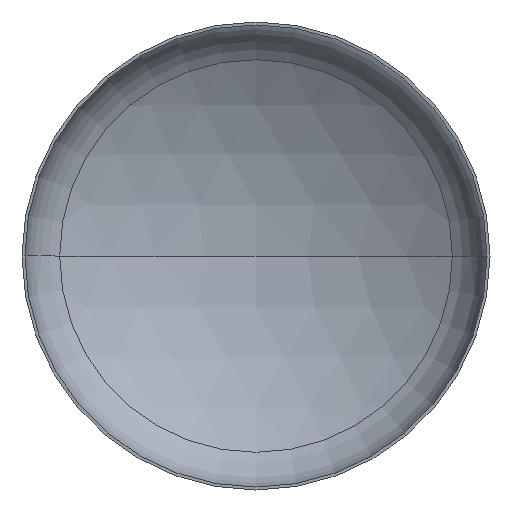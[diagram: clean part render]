
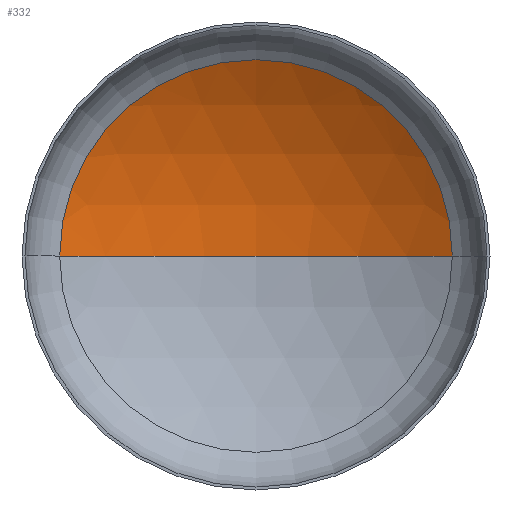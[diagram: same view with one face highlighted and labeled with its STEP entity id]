
A CAD part, front view. The second image highlights one B-rep face of the part: STEP entity #332.
In plain terms, the highlighted spherical face has radius 640 mm.
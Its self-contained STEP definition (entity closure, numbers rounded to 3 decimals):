
#3 = AXIS2_PLACEMENT_3D ( 'NONE', #273, #207, #175 ) ;
#32 = AXIS2_PLACEMENT_3D ( 'NONE', #408, #269, #74 ) ;
#33 = AXIS2_PLACEMENT_3D ( 'NONE', #168, #339, #199 ) ;
#34 = AXIS2_PLACEMENT_3D ( 'NONE', #267, #72, #290 ) ;
#50 = ORIENTED_EDGE ( 'NONE', *, *, #73, .T. ) ;
#72 = DIRECTION ( 'NONE',  ( 0., -1., 0. ) ) ;
#73 = EDGE_CURVE ( 'NONE', #192, #132, #102, .T. ) ;
#74 = DIRECTION ( 'NONE',  ( 1., 0., 0. ) ) ;
#75 = EDGE_CURVE ( 'NONE', #243, #192, #378, .T. ) ;
#91 = EDGE_CURVE ( 'NONE', #243, #132, #262, .T. ) ;
#102 = CIRCLE ( 'NONE', #34, 335.534 ) ;
#105 = ORIENTED_EDGE ( 'NONE', *, *, #75, .T. ) ;
#119 = ORIENTED_EDGE ( 'NONE', *, *, #91, .F. ) ;
#126 = EDGE_LOOP ( 'NONE', ( #119, #105, #50 ) ) ;
#128 = CARTESIAN_POINT ( 'NONE',  ( 335.534, 126.444, 0. ) ) ;
#132 = VERTEX_POINT ( 'NONE', #201 ) ;
#168 = CARTESIAN_POINT ( 'NONE',  ( 0., -418.549, 0. ) ) ;
#175 = DIRECTION ( 'NONE',  ( -1., 0., 0. ) ) ;
#192 = VERTEX_POINT ( 'NONE', #128 ) ;
#199 = DIRECTION ( 'NONE',  ( -1., 0., 0. ) ) ;
#201 = CARTESIAN_POINT ( 'NONE',  ( -335.534, 126.444, 0. ) ) ;
#207 = DIRECTION ( 'NONE',  ( 0., 0., -1. ) ) ;
#243 = VERTEX_POINT ( 'NONE', #411 ) ;
#262 = CIRCLE ( 'NONE', #32, 640. ) ;
#267 = CARTESIAN_POINT ( 'NONE',  ( 0., 126.444, 0. ) ) ;
#269 = DIRECTION ( 'NONE',  ( 0., 0., 1. ) ) ;
#273 = CARTESIAN_POINT ( 'NONE',  ( 0., -418.549, 0. ) ) ;
#290 = DIRECTION ( 'NONE',  ( 1., 0., 0. ) ) ;
#303 = FACE_OUTER_BOUND ( 'NONE', #126, .T. ) ;
#332 = ADVANCED_FACE ( 'NONE', ( #303 ), #406, .F. ) ;
#339 = DIRECTION ( 'NONE',  ( 0., 0., -1. ) ) ;
#378 = CIRCLE ( 'NONE', #33, 640. ) ;
#406 = SPHERICAL_SURFACE ( 'NONE', #3, 640. ) ;
#408 = CARTESIAN_POINT ( 'NONE',  ( 0., -418.549, 0. ) ) ;
#411 = CARTESIAN_POINT ( 'NONE',  ( 0., 221.451, 0. ) ) ;
